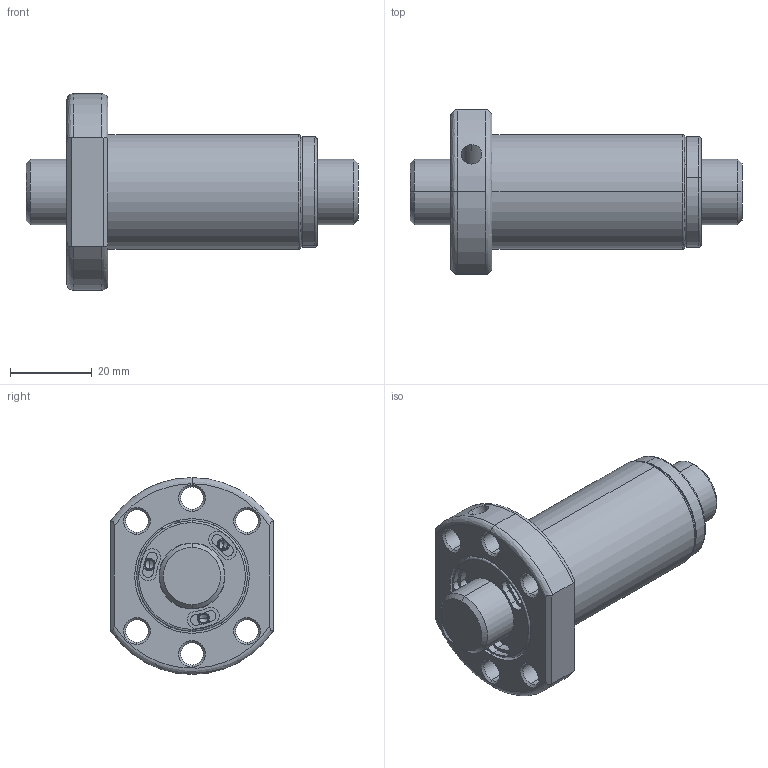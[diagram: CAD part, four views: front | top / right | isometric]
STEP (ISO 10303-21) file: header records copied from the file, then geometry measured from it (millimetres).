
FILE_DESCRIPTION (( 'STEP AP203' ), '1' );
FILE_NAME ('SFSR01616B1D-C.STEP', '2020-06-17T00:56:32', ( '' ), ( '' ), 'SwSTEP 2.0', 'SolidWorks 2013', '' );
FILE_SCHEMA (( 'CONFIG_CONTROL_DESIGN' ));
Length unit declared in the file: millimetre
Products named in the file (1): SFSR01616B1D-C
Bounding box: 81 x 40 x 48 mm (x, y, z)
Volume: 48494.7 mm3; surface area: 18455.9 mm2
Topology: 2 solids, 2 shells, 239 faces, 580 edges, 355 vertices
Faces by surface type: cylinder 121, plane 54, cone 52, bspline 12
Entity records: 7551 total; most frequent: CARTESIAN_POINT 1727, DIRECTION 1337, ORIENTED_EDGE 1136, AXIS2_PLACEMENT_3D 575, EDGE_CURVE 568, VERTEX_POINT 355, CIRCLE 347, EDGE_LOOP 279
